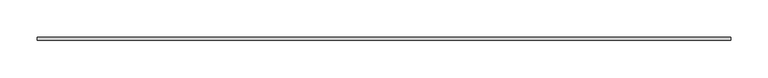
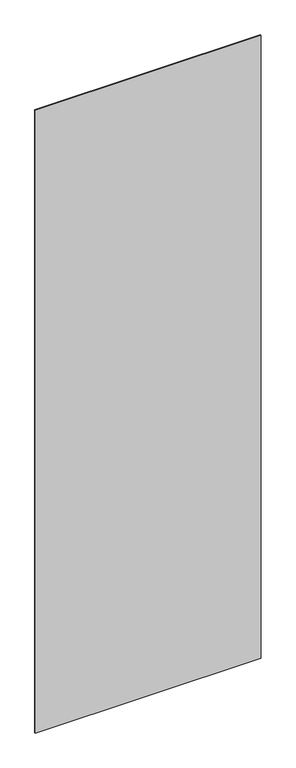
"""IFC4 building model written with IfcOpenShell, lengths in millimetres: plate geometry, Panel Flex Woodline : Panel Flex Woodline."""

from ifc_helpers import new_model, si_unit, origin, origin_with_axes, place, context, project, spatial, polyline, outline, extrude, source, transform, mapped, element, save


def plate_3e7716df(model_context):
    return source(origin(), model_context, "Body", "SweptSolid", [
        extrude(outline(polyline([(466.0, 19.5), (466.0, 15.5), (-466.0, 15.5), (-466.0, 19.5), (466.0, 19.5)])), origin_with_axes(), (0.0, 0.0, 1.0), 2716.0),
    ])


if __name__ == "__main__":
    model = new_model("IFC4")
    model_context = context("Model", 3, world=origin())
    ifc_project = project(units=[si_unit("LENGTHUNIT", "METRE", prefix="MILLI")], contexts=[model_context])
    site = spatial("IfcSite", under=ifc_project)
    building = spatial("IfcBuilding", under=site)
    placement = place(None, origin())
    plate_shape = plate_3e7716df(model_context)
    element("IfcPlate", 1, ObjectType="Panel Flex Woodline : Panel Flex Woodline", at=placement, inside=building, context=model_context, shape_type="MappedRepresentation", body=[
        mapped(plate_shape, transform((0.0, 0.0, 0.0), x_axis=(1.0, 0.0, 0.0), y_axis=(0.0, 1.0, 0.0), z_axis=(0.0, 0.0, 1.0))),
    ])
    save(model, "model.ifc")
